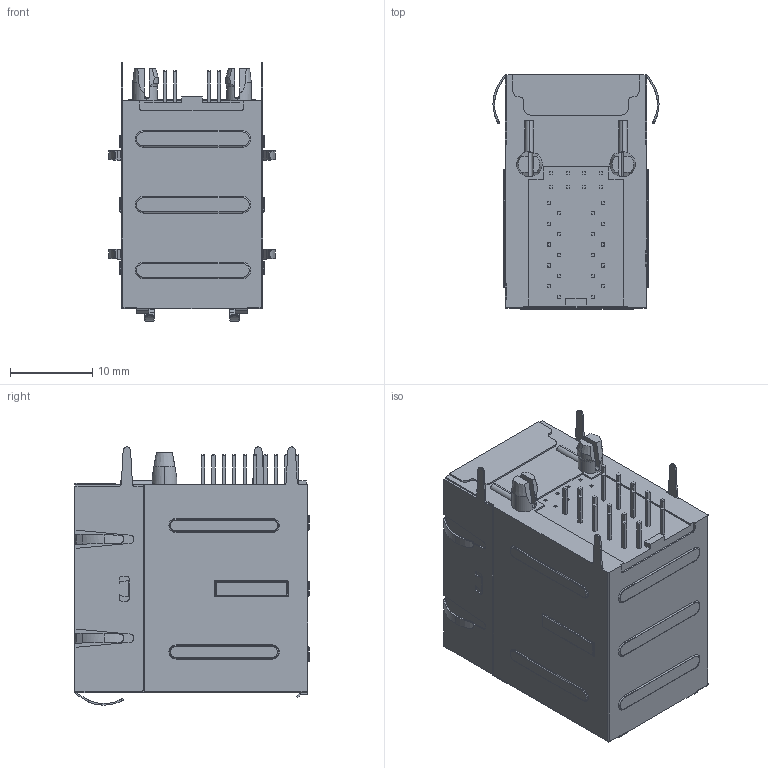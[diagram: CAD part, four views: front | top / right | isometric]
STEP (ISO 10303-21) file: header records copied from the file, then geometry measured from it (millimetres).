
FILE_DESCRIPTION((''),'2;1');
FILE_NAME('2X1_2021061500_ASM','2024-04-24T09:50:40',('Administrator'),(''),'CREO PARAMETRIC BY PTC INC, 2019010','CREO PARAMETRIC BY PTC INC, 2019010','');
FILE_SCHEMA(('CONFIG_CONTROL_DESIGN'));
Length unit declared in the file: millimetre
Products named in the file (1): 2X1_2021061500_ASM
Bounding box: 20.21 x 28.5 x 31.44 mm (x, y, z)
Volume: 9831.3 mm3; surface area: 6242.1 mm2
Topology: 5 solids, 5 shells, 948 faces, 2551 edges, 1649 vertices
Faces by surface type: plane 694, cylinder 206, torus 31, cone 11, bspline 4, sphere 2
Entity records: 29924 total; most frequent: CARTESIAN_POINT 6143, ORIENTED_EDGE 5102, DIRECTION 4601, EDGE_CURVE 2551, VECTOR 2001, LINE 2001, VERTEX_POINT 1649, AXIS2_PLACEMENT_3D 1300
